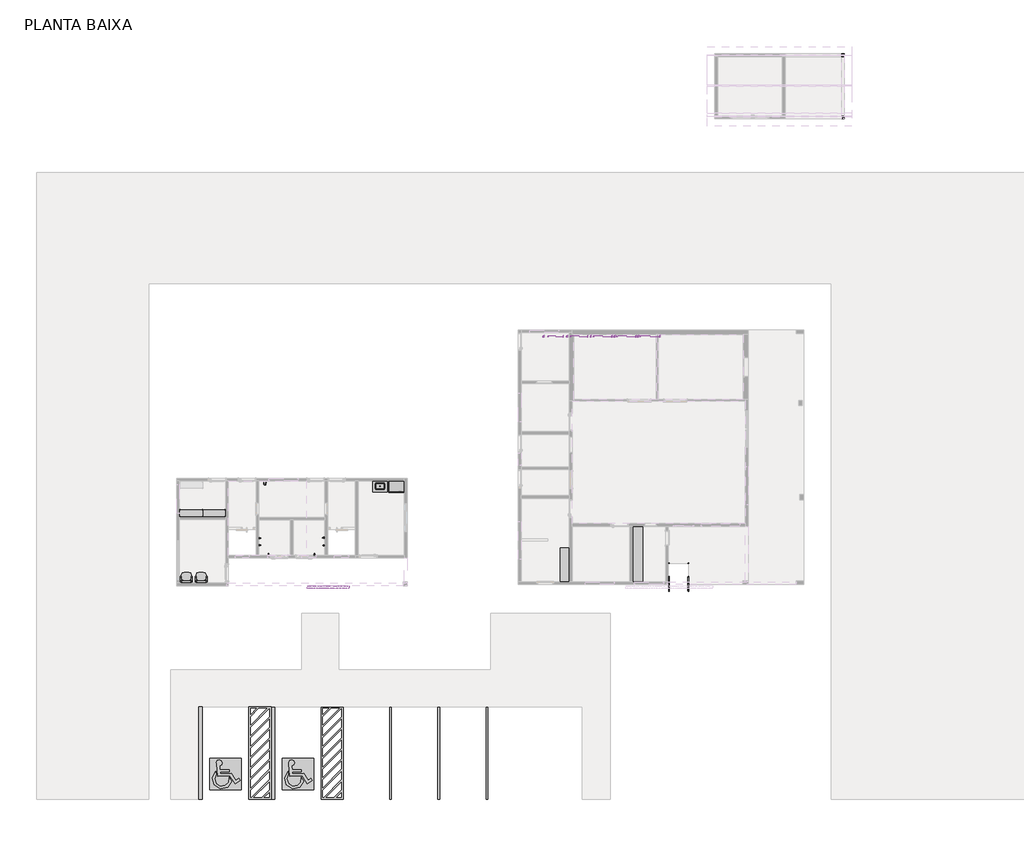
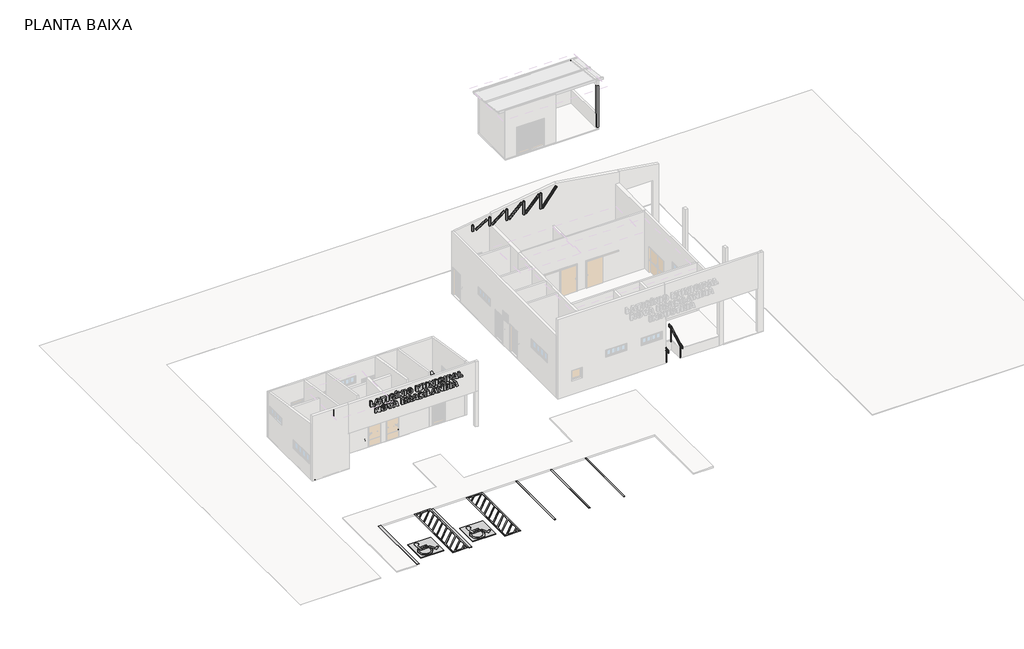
# One storey, part 3 of 4: 10 beams, 8 proxies, 7 flow terminals, 6 furniture elements, 2 columns, 2 railings.
"""IFC4 building model written with IfcOpenShell, lengths in millimetres."""

from ifc_helpers import new_model, si_unit, frame, origin, place, context, project, spatial, polyline, outline, extrude, faceted_brep, transform, mapped, element, save
from components import viga_c_10x10_52a1ff37, viga_c_10x10_c08ebecf, viga_c_10x10_03d0fb69, viga_c_10x10_4e813265, viga_c_10x10_2e194038, viga_c_10x10_8791b15d, viga_c_10x10_c337a21a, viga_c_10x10_dd512e1a, viga_c_10x10_cf55ce63, viga_c_10x10_0e119602, parking_89ea5a63, proxy_9966d709, vaga_de_estacionamento_4800_x_2400_mm_90_degraus_ee1d180e, flow_terminal_74339876, flow_terminal_2aad2271, furniture_c68440b6, furniture_9bc7e8ff, furniture_c36edc87, bancada_granito_bancada_a8d06315, bancada_granito_bancada_e0e4120f, executive_office_chair_2_chair_executive_8d69e98c, executive_office_chair_2_chair_executive_a5be4872, railing_6d980c0e, railing_13fe46f1

model = new_model("IFC4")

# Units and contexts
model_context = context("Model", 3, world=origin())
ifc_project = project(units=[si_unit("LENGTHUNIT", "METRE", prefix="MILLI")], contexts=[model_context])

# Site, building, storey
site = spatial("IfcSite", under=ifc_project)
building = spatial("IfcBuilding", under=site)
storey = spatial("IfcBuildingStorey", under=building, Name="PLANTA BAIXA", Elevation=150.0)

# Beams
placement = place(None, origin())
viga_c_10x10_shape = viga_c_10x10_52a1ff37(model_context)
element("IfcBeam", 1, ObjectType="VIGA PERFIL C AÇO : VIGA C 10X10", at=placement, inside=storey, context=model_context, shape_type="MappedRepresentation", body=[
    mapped(viga_c_10x10_shape, transform((-2589.8464828, 9418.8563425, 5019.1125534), x_axis=(0.0, 0.0, 1.0), y_axis=(-1.0, 0.0, 0.0), z_axis=(0.0, -1.0, 0.0))),
])
viga_c_10x10_2_shape = viga_c_10x10_c08ebecf(model_context)
element("IfcBeam", 2, ObjectType="VIGA PERFIL C AÇO : VIGA C 10X10", at=placement, inside=storey, context=model_context, shape_type="MappedRepresentation", body=[
    mapped(viga_c_10x10_2_shape, transform((-1316.5131495, 9418.8563425, 5114.6125534), x_axis=(0.0, 0.0, 1.0), y_axis=(-1.0, 0.0, 0.0), z_axis=(0.0, -1.0, 0.0))),
])
viga_c_10x10_3_shape = viga_c_10x10_03d0fb69(model_context)
element("IfcBeam", 3, ObjectType="VIGA PERFIL C AÇO : VIGA C 10X10", at=placement, inside=storey, context=model_context, shape_type="MappedRepresentation", body=[
    mapped(viga_c_10x10_3_shape, transform((-43.1798161, 9418.8563425, 5210.1125534), x_axis=(0.0, 0.0, 1.0), y_axis=(-1.0, 0.0, 0.0), z_axis=(0.0, -1.0, 0.0))),
])
viga_c_10x10_4_shape = viga_c_10x10_4e813265(model_context)
element("IfcBeam", 4, ObjectType="VIGA PERFIL C AÇO : VIGA C 10X10", at=placement, inside=storey, context=model_context, shape_type="MappedRepresentation", body=[
    mapped(viga_c_10x10_4_shape, transform((1230.1535172, 9418.8563425, 5305.6125534), x_axis=(0.0, 0.0, 1.0), y_axis=(-1.0, 0.0, 0.0), z_axis=(0.0, -1.0, 0.0))),
])
viga_c_10x10_5_shape = viga_c_10x10_2e194038(model_context)
element("IfcBeam", 5, ObjectType="VIGA PERFIL C AÇO : VIGA C 10X10", at=placement, inside=storey, context=model_context, shape_type="MappedRepresentation", body=[
    mapped(viga_c_10x10_5_shape, transform((2503.4868505, 9418.8563425, 5401.1125534), x_axis=(0.0, 0.0, 1.0), y_axis=(-1.0, 0.0, 0.0), z_axis=(0.0, -1.0, 0.0))),
])
viga_c_10x10_6_shape = viga_c_10x10_8791b15d(model_context)
element("IfcBeam", 6, ObjectType="VIGA PERFIL C AÇO : VIGA C 10X10", at=placement, inside=storey, context=model_context, shape_type="MappedRepresentation", body=[
    mapped(viga_c_10x10_6_shape, transform((-1953.1798161, 9418.8563425, 5114.6125534), x_axis=(0.8379746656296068, 0.0, 0.5457091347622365), y_axis=(-0.5457091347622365, 0.0, 0.8379746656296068), z_axis=(0.0, -1.0, 0.0))),
])
viga_c_10x10_7_shape = viga_c_10x10_c337a21a(model_context)
element("IfcBeam", 7, ObjectType="VIGA PERFIL C AÇO : VIGA C 10X10", at=placement, inside=storey, context=model_context, shape_type="MappedRepresentation", body=[
    mapped(viga_c_10x10_7_shape, transform((-679.8464828, 9418.8563425, 5210.1125534), x_axis=(0.7804026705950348, 0.0, 0.6252772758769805), y_axis=(-0.6252772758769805, 0.0, 0.7804026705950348), z_axis=(0.0, -1.0, 0.0))),
])
viga_c_10x10_8_shape = viga_c_10x10_dd512e1a(model_context)
element("IfcBeam", 8, ObjectType="VIGA PERFIL C AÇO : VIGA C 10X10", at=placement, inside=storey, context=model_context, shape_type="MappedRepresentation", body=[
    mapped(viga_c_10x10_8_shape, transform((593.4868505, 9418.8563425, 5305.6125534), x_axis=(0.7245564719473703, 0.0, 0.6892154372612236), y_axis=(-0.6892154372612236, 0.0, 0.7245564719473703), z_axis=(0.0, -1.0, 0.0))),
])
viga_c_10x10_9_shape = viga_c_10x10_cf55ce63(model_context)
element("IfcBeam", 9, ObjectType="VIGA PERFIL C AÇO : VIGA C 10X10", at=placement, inside=storey, context=model_context, shape_type="MappedRepresentation", body=[
    mapped(viga_c_10x10_9_shape, transform((1866.8201839, 9418.8563425, 5401.1125534), x_axis=(0.6722631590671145, 0.0, 0.7403122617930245), y_axis=(-0.7403122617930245, 0.0, 0.6722631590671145), z_axis=(0.0, -1.0, 0.0))),
])
viga_c_10x10_10_shape = viga_c_10x10_0e119602(model_context)
element("IfcBeam", 10, ObjectType="VIGA PERFIL C AÇO : VIGA C 10X10", at=placement, inside=storey, context=model_context, shape_type="MappedRepresentation", body=[
    mapped(viga_c_10x10_10_shape, transform((3140.1535172, 9418.8563425, 5496.6125534), x_axis=(0.6243222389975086, 0.0, 0.7811669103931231), y_axis=(-0.7811669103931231, 0.0, 0.6243222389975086), z_axis=(0.0, -1.0, 0.0))),
])

# Proxies
parking_shape = parking_89ea5a63(model_context)
element("IfcBuildingElementProxy", 11, Name="FDE_SI11_SinalizaçãoHorizontalParaVagaAcessível_Vagaa90º : SI11_SinalizaçãoHorizontalParaVagaAcessível_Vagaa90º", ObjectType="FDE_SI11_SinalizaçãoHorizontalParaVagaAcessível_Vagaa90º : SI11_SinalizaçãoHorizontalParaVagaAcessível_Vagaa90º", at=placement, inside=storey, context=model_context, shape_type="MappedRepresentation", body=[
    mapped(parking_shape, transform((-20516.4919552, -14009.6316492, 50.0), x_axis=(1.0, 0.0, 0.0), y_axis=(0.0, 1.0, 0.0), z_axis=(0.0, 0.0, 1.0))),
])
element("IfcBuildingElementProxy", 12, Name="FDE_SI11_SinalizaçãoHorizontalParaVagaAcessível_Vagaa90º : SI11_SinalizaçãoHorizontalParaVagaAcessível_Vagaa90º", ObjectType="FDE_SI11_SinalizaçãoHorizontalParaVagaAcessível_Vagaa90º : SI11_SinalizaçãoHorizontalParaVagaAcessível_Vagaa90º", at=placement, inside=storey, context=model_context, shape_type="MappedRepresentation", body=[
    mapped(parking_shape, transform((-16616.4919552, -14009.6316492, 0.0), x_axis=(1.0, 0.0, 0.0), y_axis=(0.0, 1.0, 0.0), z_axis=(0.0, 0.0, 1.0))),
])
element("IfcBuildingElementProxy", 13, Name="400 mm Arial 2", ObjectType="400 mm Arial 2", at=placement, inside=storey, context=model_context, shape_type="SweptSolid", body=[
    extrude(outline(polyline([(4945.9465853, -18054.3663626), (4544.5361022, -18054.3663626), (4544.5361022, -17739.5346111), (4638.9856276, -17739.5346111), (4638.9856276, -17928.433662), (4945.9465853, -17928.433662), (4945.9465853, -18054.3663626)])), frame((0.0, -4203.2411617, 0.0), z_axis=(0.0, 1.0, 0.0), x_axis=(0.0, 0.0, 1.0)), (0.0, 0.0, 1.0), 150.0),
    extrude(outline(polyline([(4607.5024525, -17442.9040703), (4544.5361022, -17424.7028597), (4544.5361022, -17290.8993653), (4945.9465853, -17426.3016147), (4945.9465853, -17588.3907742), (4544.5361022, -17723.7930236), (4544.5361022, -17589.9895292), (4607.5024525, -17572.6491866), (4607.5024525, -17442.9040703)]), holes=[polyline([(4701.9519779, -17466.762414), (4701.9519779, -17546.5771822), (4843.7492472, -17507.3461944), (4701.9519779, -17466.762414)])]), frame((0.0, -4203.2411617, 0.0), z_axis=(0.0, 1.0, 0.0), x_axis=(0.0, 0.0, 1.0)), (0.0, 0.0, 1.0), 150.0),
    extrude(outline(polyline([(4945.9465853, -17275.1577777), (4851.4970599, -17275.1577777), (4851.4970599, -17149.2250772), (4544.5361022, -17149.2250772), (4544.5361022, -17023.2923766), (4851.4970599, -17023.2923766), (4851.4970599, -16897.359676), (4945.9465853, -16897.359676), (4945.9465853, -17275.1577777)])), frame((0.0, -4203.2411617, 0.0), z_axis=(0.0, 1.0, 0.0), x_axis=(0.0, 0.0, 1.0)), (0.0, 0.0, 1.0), 150.0),
    extrude(outline(polyline([(-16716.3314189, -4203.2411617), (-16842.2641195, -4203.2411617), (-16842.2641195, -4053.2411617), (-16716.3314189, -4053.2411617), (-16716.3314189, -4203.2411617)])), frame((0.0, 0.0, 4544.5361022), z_axis=(0.0, 0.0, 1.0), x_axis=(1.0, 0.0, 0.0)), (0.0, 0.0, 1.0), 401.4104831),
    extrude(outline(polyline([(4709.8227717, -16362.1456985), (4676.0029547, -16372.8758041), (4651.2837429, -16388.5866464), (4642.4598452, -16398.7710231), (4636.1570611, -16411.1229427), (4631.1148339, -16442.3294102), (4632.6559414, -16459.6812823), (4637.2792642, -16474.9655337), (4644.984802, -16488.1821645), (4655.772555, -16499.3311746), (4670.7109219, -16508.1819745), (4690.8683015, -16514.5039743), (4746.8400988, -16519.5615743), (4793.3884651, -16515.1957433), (4811.2668502, -16509.7384547), (4825.5480366, -16502.0982505), (4840.3442066, -16489.2620927), (4850.9128994, -16473.874076), (4857.2541151, -16455.9342003), (4859.3678537, -16435.4424657), (4857.4923911, -16417.1797645), (4851.8660033, -16400.7617805), (4842.765398, -16386.4652215), (4830.4672827, -16374.566795), (4804.2722972, -16362.1456985), (4828.1306408, -16251.9545855), (4858.0381199, -16264.1297197), (4883.8103578, -16279.1334203), (4905.4473544, -16296.9656875), (4922.9491097, -16317.6265212), (4936.4539776, -16341.7692588), (4946.1003118, -16370.0472376), (4951.8881123, -16402.4604577), (4953.8173791, -16439.0089191), (4950.4584564, -16485.5303834), (4940.3816881, -16526.4638915), (4923.5870744, -16561.8094434), (4900.0746153, -16591.5670393), (4870.30549, -16615.1602048), (4834.7408778, -16632.012466), (4793.3807788, -16642.1238226), (4746.225193, -16645.4942748), (4710.3454416, -16643.5957533), (4677.847672, -16637.9001886), (4648.731884, -16628.4075809), (4622.9980778, -16615.1179301), (4600.7653912, -16599.2149297), (4582.1529624, -16581.8822735), (4567.1607912, -16563.1199614), (4555.7888777, -16542.9279933), (4541.4462007, -16495.0883248), (4536.6653084, -16435.1965034), (4540.616078, -16385.6350987), (4552.4683866, -16345.666224), (4572.0838805, -16313.3529261), (4599.3242058, -16286.7582518), (4634.2047353, -16266.189654), (4676.7408416, -16251.9545855), (4709.8227717, -16362.1456985)])), frame((0.0, -4203.2411617, 0.0), z_axis=(0.0, 1.0, 0.0), x_axis=(0.0, 0.0, 1.0)), (0.0, 0.0, 1.0), 150.0),
    extrude(outline(polyline([(-16063.0555347, -4203.2411617), (-16188.9882352, -4203.2411617), (-16188.9882352, -4053.2411617), (-16063.0555347, -4053.2411617), (-16063.0555347, -4203.2411617)])), frame((0.0, 0.0, 4544.5361022), z_axis=(0.0, 0.0, 1.0), x_axis=(1.0, 0.0, 0.0)), (0.0, 0.0, 1.0), 401.4104831),
    extrude(outline(polyline([(5056.1376983, -16126.0218849), (4977.4297605, -16173.2466477), (4977.4297605, -16126.0218849), (5056.1376983, -16031.5723595), (5056.1376983, -16126.0218849)])), frame((0.0, -4203.2411617, 0.0), z_axis=(0.0, 1.0, 0.0), x_axis=(0.0, 0.0, 1.0)), (0.0, 0.0, 1.0), 150.0),
    extrude(outline(polyline([(4945.9465853, -15976.476803), (4544.5361022, -15976.476803), (4544.5361022, -15858.4148962), (4764.9183282, -15858.4148962), (4544.5361022, -15708.8698143), (4544.5361022, -15590.8079075), (4945.9465853, -15590.8079075), (4945.9465853, -15708.8698143), (4724.0885855, -15708.8698143), (4945.9465853, -15859.2757643), (4945.9465853, -15976.476803)])), frame((0.0, -4203.2411617, 0.0), z_axis=(0.0, 1.0, 0.0), x_axis=(0.0, 0.0, 1.0)), (0.0, 0.0, 1.0), 150.0),
    extrude(outline(polyline([(-15378.2964752, -4203.2411617), (-15504.2291758, -4203.2411617), (-15504.2291758, -4053.2411617), (-15378.2964752, -4053.2411617), (-15378.2964752, -4203.2411617)])), frame((0.0, 0.0, 4544.5361022), z_axis=(0.0, 0.0, 1.0), x_axis=(1.0, 0.0, 0.0)), (0.0, 0.0, 1.0), 401.4104831),
    extrude(outline(polyline([(4744.9953815, -15307.4593312), (4711.117917, -15305.7260655), (4680.1996865, -15300.5262687), (4652.24069, -15291.8599406), (4627.2409275, -15279.7270812), (4605.3003212, -15264.8040869), (4586.5187933, -15247.7673541), (4570.8963437, -15228.6168827), (4558.4329725, -15207.3526727), (4548.9096195, -15183.5635059), (4542.1072244, -15156.8381641), (4536.6653084, -15094.5789555), (4538.2371613, -15062.5000904), (4542.9527199, -15033.1652422), (4550.8119842, -15006.5744111), (4561.8149542, -14982.7275969), (4575.6503339, -14961.5786818), (4592.0068272, -14943.0815477), (4610.8844342, -14927.2361948), (4632.2831548, -14914.042623), (4656.5296577, -14903.6584019), (4683.9506117, -14896.2411011), (4714.5460166, -14891.7907207), (4748.3158726, -14890.3072605), (4794.3069806, -14893.7046148), (4834.8792316, -14903.8966779), (4870.0326255, -14920.8834496), (4899.7671624, -14944.6649301), (4923.4141322, -14974.733822), (4940.3048249, -15010.582828), (4950.4392406, -15052.2119483), (4953.8173791, -15099.6211828), (4950.37775, -15145.9351163), (4940.0588626, -15186.8609381), (4922.860717, -15222.3986481), (4898.7833132, -15252.5482464), (4868.5337927, -15276.571846), (4832.8192973, -15293.73156), (4791.6398269, -15304.0273884), (4744.9953815, -15307.4593312)]), holes=[polyline([(4744.9953815, -15181.5266306), (4773.4501457, -15180.12772), (4797.5698243, -15175.9309881), (4817.3544173, -15168.9364351), (4832.8039246, -15159.1440608), (4844.4256436, -15147.0457898), (4852.7268714, -15133.1335469), (4857.7076081, -15117.407332), (4859.3678537, -15099.8671451), (4857.7345102, -15081.5660122), (4852.8344799, -15065.2786958), (4844.6677627, -15051.0051957), (4833.2343587, -15038.7455121), (4818.2575601, -15028.8993335), (4799.4606596, -15021.8663488), (4776.8436569, -15017.646558), (4750.4065522, -15016.2399611), (4693.4509057, -15021.6357592), (4672.7093657, -15028.3805068), (4657.1253477, -15037.8231534), (4645.7457479, -15049.7254231), (4637.6174623, -15063.8490399), (4632.740491, -15080.1940038), (4631.1148339, -15098.7603147), (4632.7750794, -15116.8846621), (4637.7558161, -15133.0105658), (4646.0570439, -15147.1380257), (4657.6787629, -15159.2670419), (4673.0975249, -15169.005612), (4692.789882, -15175.9617334), (4716.7558342, -15180.1354063), (4744.9953815, -15181.5266306)])]), frame((0.0, -4203.2411617, 0.0), z_axis=(0.0, 1.0, 0.0), x_axis=(0.0, 0.0, 1.0)), (0.0, 0.0, 1.0), 150.0),
    extrude(outline(polyline([(4945.9465853, -14638.4418593), (4544.5361022, -14638.4418593), (4544.5361022, -14536.1215401), (4849.6523426, -14536.1215401), (4544.5361022, -14463.3166976), (4544.5361022, -14364.1938883), (4849.6523426, -14292.1269327), (4544.5361022, -14292.1269327), (4544.5361022, -14189.8066135), (4945.9465853, -14189.8066135), (4945.9465853, -14356.2001134), (4701.214091, -14413.8782741), (4945.9465853, -14472.2943218), (4945.9465853, -14638.4418593)])), frame((0.0, -4203.2411617, 0.0), z_axis=(0.0, 1.0, 0.0), x_axis=(0.0, 0.0, 1.0)), (0.0, 0.0, 1.0), 150.0),
    extrude(outline(polyline([(4945.9465853, -13851.3624807), (4700.9681287, -13851.3624807), (4671.3296709, -13855.8051749), (4649.3160445, -13869.1332573), (4635.6651365, -13890.270643), (4631.1148339, -13918.1412467), (4635.7419997, -13946.1963222), (4649.6234974, -13967.3951985), (4671.713987, -13980.7232809), (4700.9681287, -13985.1659751), (4945.9465853, -13985.1659751), (4945.9465853, -14111.0986757), (4706.1333371, -14111.0986757), (4674.3734544, -14108.2086186), (4638.1247596, -14099.5384473), (4614.6046141, -14089.3617569), (4591.7608649, -14073.0974994), (4571.8379182, -14052.7748639), (4557.0801798, -14030.4230393), (4546.918862, -14004.2126811), (4540.785177, -13972.3144446), (4536.6653084, -13908.3027545), (4540.0165448, -13861.1394824), (4550.0702541, -13821.2320982), (4563.1984922, -13795.7442543), (4583.3981465, -13771.4247313), (4609.1319528, -13750.8407608), (4638.8626465, -13736.5595745), (4671.5448879, -13728.2122287), (4706.1333371, -13725.4297801), (4945.9465853, -13725.4297801), (4945.9465853, -13851.3624807)])), frame((0.0, -4203.2411617, 0.0), z_axis=(0.0, 1.0, 0.0), x_axis=(0.0, 0.0, 1.0)), (0.0, 0.0, 1.0), 150.0),
    extrude(outline(polyline([(4945.9465853, -13646.7218423), (4544.5361022, -13646.7218423), (4544.5361022, -13528.6599355), (4764.9183282, -13528.6599355), (4544.5361022, -13379.1148535), (4544.5361022, -13261.0529467), (4945.9465853, -13261.0529467), (4945.9465853, -13379.1148535), (4724.0885855, -13379.1148535), (4945.9465853, -13529.5208035), (4945.9465853, -13646.7218423)])), frame((0.0, -4203.2411617, 0.0), z_axis=(0.0, 1.0, 0.0), x_axis=(0.0, 0.0, 1.0)), (0.0, 0.0, 1.0), 150.0),
    extrude(outline(polyline([(-13048.5415145, -4203.2411617), (-13174.4742151, -4203.2411617), (-13174.4742151, -4053.2411617), (-13048.5415145, -4053.2411617), (-13048.5415145, -4203.2411617)])), frame((0.0, 0.0, 4544.5361022), z_axis=(0.0, 0.0, 1.0), x_axis=(1.0, 0.0, 0.0)), (0.0, 0.0, 1.0), 401.4104831),
    extrude(outline(polyline([(4709.8227717, -12694.3557941), (4676.0029547, -12705.0858997), (4651.2837429, -12720.796742), (4642.4598452, -12730.9811187), (4636.1570611, -12743.3330383), (4631.1148339, -12774.5395058), (4632.6559414, -12791.8913779), (4637.2792642, -12807.1756293), (4644.984802, -12820.3922601), (4655.772555, -12831.5412702), (4670.7109219, -12840.39207), (4690.8683015, -12846.7140699), (4746.8400988, -12851.7716698), (4793.3884651, -12847.4058389), (4811.2668502, -12841.9485503), (4825.5480366, -12834.3083461), (4840.3442066, -12821.4721883), (4850.9128994, -12806.0841715), (4857.2541151, -12788.1442959), (4859.3678537, -12767.6525613), (4857.4923911, -12749.38986), (4851.8660033, -12732.9718761), (4842.765398, -12718.6753171), (4830.4672827, -12706.7768906), (4804.2722972, -12694.3557941), (4828.1306408, -12584.1646811), (4858.0381199, -12596.3398153), (4883.8103578, -12611.3435159), (4905.4473544, -12629.1757831), (4922.9491097, -12649.8366168), (4936.4539776, -12673.9793543), (4946.1003118, -12702.2573332), (4951.8881123, -12734.6705533), (4953.8173791, -12771.2190147), (4950.4584564, -12817.7404789), (4940.3816881, -12858.6739871), (4923.5870744, -12894.019539), (4900.0746153, -12923.7771349), (4870.30549, -12947.3703004), (4834.7408778, -12964.2225615), (4793.3807788, -12974.3339182), (4746.225193, -12977.7043704), (4710.3454416, -12975.8058489), (4677.847672, -12970.1102842), (4648.731884, -12960.6176765), (4622.9980778, -12947.3280257), (4600.7653912, -12931.4250253), (4582.1529624, -12914.0923691), (4567.1607912, -12895.3300569), (4555.7888777, -12875.1380889), (4541.4462007, -12827.2984204), (4536.6653084, -12767.406599), (4540.616078, -12717.8451943), (4552.4683866, -12677.8763196), (4572.0838805, -12645.5630217), (4599.3242058, -12618.9683474), (4634.2047353, -12598.3997496), (4676.7408416, -12584.1646811), (4709.8227717, -12694.3557941)])), frame((0.0, -4203.2411617, 0.0), z_axis=(0.0, 1.0, 0.0), x_axis=(0.0, 0.0, 1.0)), (0.0, 0.0, 1.0), 150.0),
    extrude(outline(polyline([(-12395.2656302, -4203.2411617), (-12521.1983308, -4203.2411617), (-12521.1983308, -4053.2411617), (-12395.2656302, -4053.2411617), (-12395.2656302, -4203.2411617)])), frame((0.0, 0.0, 4544.5361022), z_axis=(0.0, 0.0, 1.0), x_axis=(1.0, 0.0, 0.0)), (0.0, 0.0, 1.0), 401.4104831),
    extrude(outline(polyline([(4945.9465853, -12308.6868986), (4544.5361022, -12308.6868986), (4544.5361022, -12182.754198), (4670.4688028, -12182.754198), (4670.4688028, -12115.975432), (4672.8016015, -12081.4446301), (4679.7999978, -12051.6409164), (4691.4639915, -12026.5642907), (4707.7935827, -12006.214753), (4728.2737878, -11990.4770086), (4752.3896233, -11979.2357626), (4780.1410891, -11972.491015), (4811.5281852, -11970.2427658), (4841.9083731, -11972.3257591), (4868.6068128, -11978.5747389), (4891.6235042, -11988.9897053), (4910.9584473, -12003.5706582), (4926.2657577, -12022.3329704), (4937.1995508, -12045.2920143), (4943.7598267, -12072.4477902), (4945.9465853, -12103.8002978), (4945.9465853, -12308.6868986)]), holes=[polyline([(4764.9183282, -12182.754198), (4851.4970599, -12182.754198), (4851.4970599, -12150.6561171), (4848.3149225, -12124.0921881), (4838.7685106, -12107.6127136), (4824.6717959, -12099.0347782), (4807.8387506, -12096.1754664), (4790.7136251, -12099.4652122), (4776.9704812, -12109.3344497), (4767.9313665, -12127.3511886), (4764.9183282, -12155.0834386), (4764.9183282, -12182.754198)])]), frame((0.0, -4203.2411617, 0.0), z_axis=(0.0, 1.0, 0.0), x_axis=(0.0, 0.0, 1.0)), (0.0, 0.0, 1.0), 150.0),
    extrude(outline(polyline([(4607.5024525, -11665.7414312), (4544.5361022, -11647.5402205), (4544.5361022, -11513.7367262), (4945.9465853, -11649.1389755), (4945.9465853, -11811.2281351), (4544.5361022, -11946.6303844), (4544.5361022, -11812.8268901), (4607.5024525, -11795.4865475), (4607.5024525, -11665.7414312)]), holes=[polyline([(4701.9519779, -11689.5997748), (4701.9519779, -11769.4145431), (4843.7492472, -11730.1835553), (4701.9519779, -11689.5997748)])]), frame((0.0, -4203.2411617, 0.0), z_axis=(0.0, 1.0, 0.0), x_axis=(0.0, 0.0, 1.0)), (0.0, 0.0, 1.0), 150.0),
    extrude(outline(polyline([(4945.9465853, -11474.3827572), (4544.5361022, -11474.3827572), (4544.5361022, -11159.5510058), (4638.9856276, -11159.5510058), (4638.9856276, -11348.4500567), (4945.9465853, -11348.4500567), (4945.9465853, -11474.3827572)])), frame((0.0, -4203.2411617, 0.0), z_axis=(0.0, 1.0, 0.0), x_axis=(0.0, 0.0, 1.0)), (0.0, 0.0, 1.0), 150.0),
    extrude(outline(polyline([(4317.6935655, -17708.051436), (3916.2830824, -17708.051436), (3916.2830824, -17589.9895292), (4136.6653084, -17589.9895292), (3916.2830824, -17440.4444473), (3916.2830824, -17322.3825405), (4317.6935655, -17322.3825405), (4317.6935655, -17440.4444473), (4095.8355657, -17440.4444473), (4317.6935655, -17590.8503973), (4317.6935655, -17708.051436)])), frame((0.0, -4203.2411617, 0.0), z_axis=(0.0, 1.0, 0.0), x_axis=(0.0, 0.0, 1.0)), (0.0, 0.0, 1.0), 150.0),
    extrude(outline(polyline([(4116.7423617, -17259.4161902), (4082.8648972, -17257.6829245), (4051.9466667, -17252.4831277), (4023.9876702, -17243.8167996), (3998.9879077, -17231.6839402), (3977.0473014, -17216.7609459), (3958.2657735, -17199.7242131), (3942.6433239, -17180.5737417), (3930.1799527, -17159.3095317), (3920.6565997, -17135.5203649), (3913.8542046, -17108.7950231), (3908.4122886, -17046.5358145), (3909.9841415, -17014.4569494), (3914.6997001, -16985.1221012), (3922.5589644, -16958.5312701), (3933.5619344, -16934.6844559), (3947.3973141, -16913.5355408), (3963.7538074, -16895.0384067), (3982.6314144, -16879.1930538), (4004.030135, -16865.999482), (4028.2766379, -16855.6152609), (4055.6975919, -16848.1979601), (4086.2929968, -16843.7475797), (4120.0628528, -16842.2641195), (4166.0539608, -16845.6614738), (4206.6262118, -16855.8535369), (4241.7796057, -16872.8403086), (4271.5141426, -16896.6217891), (4295.1611124, -16926.690681), (4312.0518051, -16962.539687), (4322.1862208, -17004.1688073), (4325.5643593, -17051.5780417), (4322.1247302, -17097.8919753), (4311.8058428, -17138.8177971), (4294.6076972, -17174.3555071), (4270.5302934, -17204.5051054), (4240.2807729, -17228.528705), (4204.5662775, -17245.688419), (4163.3868071, -17255.9842474), (4116.7423617, -17259.4161902)]), holes=[polyline([(4116.7423617, -17133.4834896), (4145.1971259, -17132.084579), (4169.3168045, -17127.8878471), (4189.1013975, -17120.8932941), (4204.5509048, -17111.1009198), (4216.1726238, -17099.0026488), (4224.4738516, -17085.0904059), (4229.4545883, -17069.364191), (4231.1148339, -17051.8240041), (4229.4814904, -17033.5228712), (4224.5814601, -17017.2355548), (4216.4147429, -17002.9620547), (4204.9813389, -16990.7023711), (4190.0045403, -16980.8561925), (4171.2076397, -16973.8232078), (4148.5906371, -16969.603417), (4122.1535324, -16968.1968201), (4065.1978859, -16973.5926182), (4044.4563459, -16980.3373658), (4028.8723279, -16989.7800124), (4017.4927281, -17001.6822821), (4009.3644425, -17015.8058989), (4004.4874712, -17032.1508628), (4002.8618141, -17050.7171737), (4004.5220596, -17068.8415211), (4009.5027963, -17084.9674248), (4017.8040241, -17099.0948847), (4029.4257431, -17111.2239009), (4044.8445051, -17120.962471), (4064.5368622, -17127.9185924), (4088.5028144, -17132.0922653), (4116.7423617, -17133.4834896)])]), frame((0.0, -4203.2411617, 0.0), z_axis=(0.0, 1.0, 0.0), x_axis=(0.0, 0.0, 1.0)), (0.0, 0.0, 1.0), 150.0),
    extrude(outline(polyline([(4317.6935655, -16810.7809443), (3916.2830824, -16661.6048059), (3916.2830824, -16527.9242927), (4317.6935655, -16377.8872861), (4317.6935655, -16511.6907805), (4028.8108373, -16594.3341152), (4317.6935655, -16677.1004311), (4317.6935655, -16810.7809443)])), frame((0.0, -4203.2411617, 0.0), z_axis=(0.0, 1.0, 0.0), x_axis=(0.0, 0.0, 1.0)), (0.0, 0.0, 1.0), 150.0),
    extrude(outline(polyline([(3979.2494327, -16104.8691266), (3916.2830824, -16086.667916), (3916.2830824, -15952.8644216), (4317.6935655, -16088.266671), (4317.6935655, -16250.3558305), (3916.2830824, -16385.7580799), (3916.2830824, -16251.9545855), (3979.2494327, -16234.614243), (3979.2494327, -16104.8691266)]), holes=[polyline([(4073.6989581, -16128.7274703), (4073.6989581, -16208.5422385), (4215.4962274, -16169.3112508), (4073.6989581, -16128.7274703)])]), frame((0.0, -4203.2411617, 0.0), z_axis=(0.0, 1.0, 0.0), x_axis=(0.0, 0.0, 1.0)), (0.0, 0.0, 1.0), 150.0),
    extrude(outline(polyline([(4317.6935655, -15724.6114018), (3916.2830824, -15724.6114018), (3916.2830824, -15511.1161204), (3921.6942531, -15455.6516204), (3927.0746786, -15428.2575686), (3934.8532365, -15408.7958012), (3951.8553809, -15386.2748775), (3974.0842243, -15369.1343794), (4000.4636816, -15358.2966653), (4029.9176677, -15354.6840939), (4064.9058057, -15359.7570664), (4093.3759426, -15374.9759841), (4105.0514658, -15386.5362125), (4114.8668991, -15400.9250074), (4128.9174958, -15438.1882967), (4140.6314506, -15412.2392734), (4155.8503683, -15393.4231571), (4183.982307, -15376.1750504), (4217.2179636, -15370.4256815), (4237.6943255, -15372.3780073), (4256.4489514, -15378.2349847), (4273.481841, -15387.9966137), (4288.7929946, -15401.6628943), (4301.4369944, -15418.9724916), (4310.4684228, -15439.6640705), (4315.8872798, -15463.7376312), (4317.6935655, -15491.1931736), (4317.6935655, -15724.6114018)]), holes=[polyline([(4010.7326078, -15598.6787013), (4081.5697519, -15598.6787013), (4081.5697519, -15537.5570683), (4079.2177374, -15510.6088231), (4072.1616937, -15493.2223626), (4061.2317438, -15483.7681865), (4047.2580103, -15480.6167945), (4032.238937, -15483.8143044), (4020.6325907, -15493.4068344), (4013.2076035, -15510.7779222), (4010.7326078, -15537.311106), (4010.7326078, -15598.6787013)]), polyline([(4160.2776898, -15598.6787013), (4223.2440401, -15598.6787013), (4223.2440401, -15545.6738244), (4221.1994784, -15522.4457591), (4215.0657934, -15507.3651952), (4205.3349097, -15499.1100853), (4192.4987518, -15496.358382), (4178.6326269, -15499.1100853), (4168.517427, -15507.3651952), (4162.3376241, -15522.6302308), (4160.2776898, -15546.4117113), (4160.2776898, -15598.6787013)])]), frame((0.0, -4203.2411617, 0.0), z_axis=(0.0, 1.0, 0.0), x_axis=(0.0, 0.0, 1.0)), (0.0, 0.0, 1.0), 150.0),
    extrude(outline(polyline([(3916.2830824, -15291.7177436), (3916.2830824, -15165.785043), (4073.6989581, -15165.785043), (4073.6989581, -15155.2086639), (4071.4545521, -15139.6208027), (4064.721334, -15125.8161683), (4053.8067567, -15115.5779873), (4034.8369138, -15104.0485043), (3916.2830824, -15040.0983047), (3916.2830824, -14898.1780543), (4028.6878562, -14958.8077627), (4053.1611056, -14976.0251241), (4073.9449204, -14995.7021085), (4088.4566965, -15027.8001895), (4095.7125845, -15002.7735248), (4104.6902087, -14983.7729367), (4122.4148673, -14961.1751499), (4144.8435551, -14944.0500243), (4171.976272, -14933.2584282), (4203.8130179, -14929.6612294), (4239.9694769, -14934.3191406), (4270.2228405, -14948.2928741), (4293.2203161, -14969.8606938), (4307.609111, -14997.3008635), (4315.1724519, -15034.4411717), (4317.6935655, -15085.1094067), (4317.6935655, -15291.7177436), (3916.2830824, -15291.7177436)]), holes=[polyline([(4152.406896, -15165.785043), (4223.2440401, -15165.785043), (4223.2440401, -15112.657185), (4220.9842614, -15084.8480718), (4214.2049253, -15067.5845924), (4203.2134848, -15058.5915956), (4188.3173926, -15055.59393), (4177.5411691, -15057.5001379), (4168.086993, -15063.2187615), (4160.9694588, -15071.9196781), (4157.203161, -15082.7727648), (4152.406896, -15114.8708457), (4152.406896, -15165.785043)])]), frame((0.0, -4203.2411617, 0.0), z_axis=(0.0, 1.0, 0.0), x_axis=(0.0, 0.0, 1.0)), (0.0, 0.0, 1.0), 150.0),
    extrude(outline(polyline([(3979.2494327, -14617.289101), (3916.2830824, -14599.0878904), (3916.2830824, -14465.284396), (4317.6935655, -14600.6866454), (4317.6935655, -14762.7758049), (3916.2830824, -14898.1780543), (3916.2830824, -14764.3745599), (3979.2494327, -14747.0342174), (3979.2494327, -14617.289101)]), holes=[polyline([(4073.6989581, -14641.1474447), (4073.6989581, -14720.9622129), (4215.4962274, -14681.7312252), (4073.6989581, -14641.1474447)])]), frame((0.0, -4203.2411617, 0.0), z_axis=(0.0, 1.0, 0.0), x_axis=(0.0, 0.0, 1.0)), (0.0, 0.0, 1.0), 150.0),
    extrude(outline(polyline([(4050.3325391, -14449.5428085), (4020.8170624, -14444.831093), (3994.007171, -14435.8611552), (3969.9028651, -14422.6329949), (3948.5041445, -14405.1466123), (3930.9639575, -14381.6264668), (3918.4352526, -14350.2970181), (3910.9180296, -14311.1582662), (3908.4122886, -14264.210211), (3912.6858837, -14211.1438435), (3925.5066689, -14168.0389495), (3946.6133092, -14134.1422692), (3975.7444698, -14108.7005432), (4010.379037, -14092.7898565), (4047.9958972, -14087.4862943), (4079.8326431, -14091.4524365), (4108.4411338, -14103.350863), (4133.2372088, -14123.9809514), (4153.6367075, -14154.1420792), (4171.7456823, -14200.5059738), (4189.6701853, -14269.7443629), (4196.9568186, -14294.8632634), (4204.7968671, -14305.0399538), (4222.5061532, -14307.8685203), (4234.911877, -14305.808586), (4245.319157, -14299.6287831), (4252.3752007, -14289.3598568), (4254.7272152, -14275.0325525), (4251.452842, -14257.3693844), (4241.6297224, -14243.9798114), (4224.5814601, -14234.6486164), (4199.6316587, -14229.1605824), (4206.8875467, -14103.2278819), (4235.7266271, -14108.9964666), (4260.3843483, -14118.8003704), (4280.8607102, -14132.6395932), (4297.155713, -14150.5141352), (4309.5844957, -14172.6468995), (4318.4621977, -14199.2607896), (4323.7888189, -14230.3558055), (4325.5643593, -14265.9319472), (4321.6289624, -14321.0889942), (4309.8227717, -14363.087058), (4291.1603818, -14394.0629359), (4266.6563871, -14416.1534254), (4238.3707219, -14429.389272), (4208.3633206, -14433.8012209), (4185.8654559, -14431.6259917), (4165.4736435, -14425.1003043), (4147.1878833, -14414.2241586), (4131.0081754, -14398.9975546), (4116.5425173, -14378.8747635), (4103.5218877, -14352.9411129), (4081.8157142, -14283.6412332), (4070.2554859, -14243.9490661), (4057.9573706, -14223.7494117), (4044.5524249, -14216.0015991), (4029.4257431, -14213.4189949), (4013.6072923, -14216.5703869), (3999.8487758, -14226.024563), (3990.3023638, -14241.2895987), (3987.1202265, -14261.8735691), (3988.7036088, -14276.5928759), (3993.4537559, -14289.5135832), (4001.3706676, -14300.6356913), (4012.454344, -14309.9591999), (4031.6394038, -14318.5371353), (4057.9573706, -14323.6101079), (4050.3325391, -14449.5428085)])), frame((0.0, -4203.2411617, 0.0), z_axis=(0.0, 1.0, 0.0), x_axis=(0.0, 0.0, 1.0)), (0.0, 0.0, 1.0), 150.0),
    extrude(outline(polyline([(-13890.7164496, -4203.2411617), (-14016.6491502, -4203.2411617), (-14016.6491502, -4053.2411617), (-13890.7164496, -4053.2411617), (-13890.7164496, -4203.2411617)])), frame((0.0, 0.0, 3916.2830824), z_axis=(0.0, 0.0, 1.0), x_axis=(1.0, 0.0, 0.0)), (0.0, 0.0, 1.0), 401.4104831),
    extrude(outline(polyline([(4317.6935655, -13804.137718), (3916.2830824, -13804.137718), (3916.2830824, -13489.3059665), (4010.7326078, -13489.3059665), (4010.7326078, -13678.2050174), (4317.6935655, -13678.2050174), (4317.6935655, -13804.137718)])), frame((0.0, -4203.2411617, 0.0), z_axis=(0.0, 1.0, 0.0), x_axis=(0.0, 0.0, 1.0)), (0.0, 0.0, 1.0), 150.0),
    extrude(outline(polyline([(4427.8846785, -13292.1671784), (4349.1767407, -13355.5024722), (4349.1767407, -13286.8789888), (4391.236295, -13253.1821529), (4349.1767407, -13219.4853171), (4349.1767407, -13150.8618337), (4427.8846785, -13212.229429), (4427.8846785, -13292.1671784)])), frame((0.0, -4203.2411617, 0.0), z_axis=(0.0, 1.0, 0.0), x_axis=(0.0, 0.0, 1.0)), (0.0, 0.0, 1.0), 150.0),
    extrude(outline(polyline([(3979.2494327, -13192.6754257), (3916.2830824, -13174.4742151), (3916.2830824, -13040.6707207), (4317.6935655, -13176.0729701), (4317.6935655, -13338.1621296), (3916.2830824, -13473.564379), (3916.2830824, -13339.7608846), (3979.2494327, -13322.420542), (3979.2494327, -13192.6754257)]), holes=[polyline([(4073.6989581, -13216.5337694), (4073.6989581, -13296.3485376), (4215.4962274, -13257.1175498), (4073.6989581, -13216.5337694)])]), frame((0.0, -4203.2411617, 0.0), z_axis=(0.0, 1.0, 0.0), x_axis=(0.0, 0.0, 1.0)), (0.0, 0.0, 1.0), 150.0),
    extrude(outline(polyline([(4317.6935655, -13001.3167518), (3916.2830824, -13001.3167518), (3916.2830824, -12883.254845), (4136.6653084, -12883.254845), (3916.2830824, -12733.7097631), (3916.2830824, -12615.6478563), (4317.6935655, -12615.6478563), (4317.6935655, -12733.7097631), (4095.8355657, -12733.7097631), (4317.6935655, -12884.1157131), (4317.6935655, -13001.3167518)])), frame((0.0, -4203.2411617, 0.0), z_axis=(0.0, 1.0, 0.0), x_axis=(0.0, 0.0, 1.0)), (0.0, 0.0, 1.0), 150.0),
    extrude(outline(polyline([(4317.6935655, -12536.9399184), (3916.2830824, -12536.9399184), (3916.2830824, -12352.3452079), (3919.0194131, -12317.2955793), (3927.228405, -12278.3105538), (3939.2036948, -12249.3946102), (3959.1420142, -12222.4156198), (3985.9519055, -12199.2336725), (4018.5419111, -12181.7088582), (4061.2317438, -12170.6866724), (4118.3411166, -12167.0126104), (4158.325364, -12169.4876061), (4196.1266959, -12176.9125933), (4230.5767913, -12189.8102417), (4260.5073294, -12208.7032213), (4284.9498335, -12233.5300415), (4302.9358272, -12264.2292118), (4314.0041309, -12303.0758835), (4317.6935655, -12352.3452079), (4317.6935655, -12536.9399184)]), holes=[polyline([(4223.2440401, -12411.0072178), (4223.2440401, -12380.7538542), (4221.8182273, -12358.8747385), (4217.5407891, -12340.3391728), (4210.4117254, -12325.1471573), (4200.4310362, -12313.2986918), (4186.584127, -12304.3940877), (4167.8564033, -12298.0336562), (4115.7585124, -12292.945311), (4075.5897934, -12295.2204624), (4048.3033501, -12302.0459163), (4030.5786914, -12312.8836304), (4019.0953262, -12327.1955621), (4012.8232874, -12348.7326365), (4010.7326078, -12381.2457788), (4010.7326078, -12411.0072178), (4223.2440401, -12411.0072178)])]), frame((0.0, -4203.2411617, 0.0), z_axis=(0.0, 1.0, 0.0), x_axis=(0.0, 0.0, 1.0)), (0.0, 0.0, 1.0), 150.0),
    extrude(outline(polyline([(-11970.2427658, -4203.2411617), (-12096.1754664, -4203.2411617), (-12096.1754664, -4053.2411617), (-11970.2427658, -4053.2411617), (-11970.2427658, -4203.2411617)])), frame((0.0, 0.0, 3916.2830824), z_axis=(0.0, 0.0, 1.0), x_axis=(1.0, 0.0, 0.0)), (0.0, 0.0, 1.0), 401.4104831),
    extrude(outline(polyline([(3979.2494327, -11642.1290498), (3916.2830824, -11623.9278392), (3916.2830824, -11490.1243448), (4317.6935655, -11625.5265942), (4317.6935655, -11787.6157537), (3916.2830824, -11923.0180031), (3916.2830824, -11789.2145087), (3979.2494327, -11771.8741661), (3979.2494327, -11642.1290498)]), holes=[polyline([(4073.6989581, -11665.9873935), (4073.6989581, -11745.8021617), (4215.4962274, -11706.5711739), (4073.6989581, -11665.9873935)])]), frame((0.0, -4203.2411617, 0.0), z_axis=(0.0, 1.0, 0.0), x_axis=(0.0, 0.0, 1.0)), (0.0, 0.0, 1.0), 150.0),
])
proxy_shape = proxy_9966d709(model_context)
element("IfcBuildingElementProxy", 14, Name="prateleira2 : 48\" Wide x 14\" Deep", ObjectType="prateleira2 : 48\" Wide x 14\" Deep", at=placement, inside=storey, context=model_context, shape_type="MappedRepresentation", body=[
    mapped(proxy_shape, transform((-21578.1798161, -133.2411617, 150.0), x_axis=(-1.0000000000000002, 0.0, 0.0), y_axis=(0.0, -1.0000000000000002, 0.0), z_axis=(0.0, 0.0, 1.0))),
])
element("IfcBuildingElementProxy", 15, Name="prateleira2 : 48\" Wide x 14\" Deep", ObjectType="prateleira2 : 48\" Wide x 14\" Deep", at=placement, inside=storey, context=model_context, shape_type="MappedRepresentation", body=[
    mapped(proxy_shape, transform((-20358.1798161, -133.2411617, 150.0), x_axis=(-1.0000000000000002, 0.0, 0.0), y_axis=(0.0, -1.0000000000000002, 0.0), z_axis=(0.0, 0.0, 1.0))),
])
vaga_de_estacionamento_4800_x_2400_mm_90_degraus_shape = vaga_de_estacionamento_4800_x_2400_mm_90_degraus_ee1d180e(model_context)
element("IfcBuildingElementProxy", 16, Name="Vaga de estacionamento : 4800 x 2400 mm - 90 degraus", ObjectType="Vaga de estacionamento : 4800 x 2400 mm - 90 degraus", at=placement, inside=storey, context=model_context, shape_type="MappedRepresentation", body=[
    mapped(vaga_de_estacionamento_4800_x_2400_mm_90_degraus_shape, transform((-10821.8222276, -10581.0235359, 10.0), x_axis=(1.0, 0.0, 0.0), y_axis=(0.0, 1.0, 0.0), z_axis=(0.0, 0.0, 1.0))),
])
element("IfcBuildingElementProxy", 17, Name="Vaga de estacionamento : 4800 x 2400 mm - 90 degraus", ObjectType="Vaga de estacionamento : 4800 x 2400 mm - 90 degraus", at=placement, inside=storey, context=model_context, shape_type="MappedRepresentation", body=[
    mapped(vaga_de_estacionamento_4800_x_2400_mm_90_degraus_shape, transform((-8219.8222276, -10581.0235359, 15.0), x_axis=(1.0, 0.0, 0.0), y_axis=(0.0, 1.0, 0.0), z_axis=(0.0, 0.0, 1.0))),
])
element("IfcBuildingElementProxy", 18, Name="Vaga de estacionamento : 4800 x 2400 mm - 90 degraus", ObjectType="Vaga de estacionamento : 4800 x 2400 mm - 90 degraus", at=placement, inside=storey, context=model_context, shape_type="MappedRepresentation", body=[
    mapped(vaga_de_estacionamento_4800_x_2400_mm_90_degraus_shape, transform((-5617.8222276, -10581.0235359, 15.0), x_axis=(1.0, 0.0, 0.0), y_axis=(0.0, 1.0, 0.0), z_axis=(0.0, 0.0, 1.0))),
])

# Columns
element("IfcColumn", 19, ObjectType="M_Concreto-Retangular-Coluna : 15X15", at=placement, inside=storey, context=model_context, shape_type="Brep", body=[
    faceted_brep([(13678.4025194, 24668.8563425, 230.0), (13678.4025194, 24518.8563425, 230.0), (13528.4025194, 24518.8563425, 230.0), (13528.4025194, 24668.8563425, 230.0), (13678.4025194, 24668.8563425, 3550.0), (13678.4025194, 24518.8563425, 3550.0), (13678.4025194, 24518.8563425, 3420.0), (13678.4025194, 24518.8563425, 3120.0), (13678.4025194, 24518.8563425, 1250.0), (13528.4025194, 24518.8563425, 3550.0), (13528.4025194, 24518.8563425, 3420.0), (13528.4025194, 24518.8563425, 3120.0), (13528.4025194, 24518.8563425, 1250.0), (13528.4025194, 24668.8563425, 3550.0), (13528.4025194, 24668.8563425, 1250.0)], [[[0, 1, 2, 3]], [[4, 5, 6, 7, 8, 1, 0]], [[5, 9, 10, 11, 12, 2, 1, 8, 7, 6]], [[9, 13, 14, 3, 2, 12, 11, 10]], [[13, 4, 0, 3, 14]], [[4, 13, 9, 5]]]),
])
element("IfcColumn", 20, ObjectType="M_Concreto-Retangular-Coluna : 15X15", at=placement, inside=storey, context=model_context, shape_type="Brep", body=[
    faceted_brep([(13678.4025194, 21318.8563425, 230.0), (13678.4025194, 21168.8563425, 230.0), (13528.4025194, 21168.8563425, 230.0), (13528.4025194, 21318.8563425, 230.0), (13678.4025194, 21318.8563425, 3550.0), (13678.4025194, 21168.8563425, 3550.0), (13678.4025194, 21318.8563425, 1250.0), (13678.4025194, 21318.8563425, 3120.0), (13678.4025194, 21318.8563425, 3420.0), (13528.4025194, 21168.8563425, 3550.0), (13528.4025194, 21318.8563425, 3550.0), (13528.4025194, 21318.8563425, 3420.0), (13528.4025194, 21318.8563425, 3120.0), (13528.4025194, 21318.8563425, 1250.0)], [[[0, 1, 2, 3]], [[4, 5, 1, 0, 6, 7, 8]], [[5, 9, 2, 1]], [[9, 10, 11, 12, 13, 3, 2]], [[10, 4, 8, 7, 6, 0, 3, 13, 12, 11]], [[4, 10, 9, 5]]]),
])

# Flow terminals
flow_terminal_shape = flow_terminal_74339876(model_context)
element("IfcFlowTerminal", 21, ObjectType="Deca_Shared_Coluna para Tanque_TQ.03 : CT.25_Branco Gelo GE17", at=placement, inside=storey, context=model_context, shape_type="MappedRepresentation", body=[
    mapped(flow_terminal_shape, transform((-17604.0326871, 1516.9924147, 150.0), x_axis=(1.0, 0.0, 0.0), y_axis=(0.0, 0.0, 1.0), z_axis=(0.0, -1.0, 0.0))),
])
flow_terminal_2_shape = flow_terminal_2aad2271(model_context)
element("IfcFlowTerminal", 22, ObjectType="Deca_Barra de Apoio Conforto - Aco Inox_2310.C.070_70 cm : 2310.C.070.ESC_Aço Inox Escovado ESC", at=placement, inside=storey, context=model_context, shape_type="MappedRepresentation", body=[
    mapped(flow_terminal_2_shape, transform((-17408.1798161, -2403.2411617, 900.0), x_axis=(0.0, 0.0, 1.0), y_axis=(1.0, 0.0, 0.0), z_axis=(0.0, 1.0, 0.0))),
])
element("IfcFlowTerminal", 23, ObjectType="Deca_Barra de Apoio Conforto - Aco Inox_2310.C.070_70 cm : 2310.C.070.ESC_Aço Inox Escovado ESC", at=placement, inside=storey, context=model_context, shape_type="MappedRepresentation", body=[
    mapped(flow_terminal_2_shape, transform((-17923.1798161, -1863.2411617, 900.0), x_axis=(0.0, 0.0, 1.0), y_axis=(0.0, -1.0, 0.0), z_axis=(1.0, 0.0, 0.0))),
])
element("IfcFlowTerminal", 24, ObjectType="Deca_Barra de Apoio Conforto - Aco Inox_2310.C.070_70 cm : 2310.C.070.ESC_Aço Inox Escovado ESC", at=placement, inside=storey, context=model_context, shape_type="MappedRepresentation", body=[
    mapped(flow_terminal_2_shape, transform((-17923.1798161, -1483.2411617, 900.0), x_axis=(0.0, 0.0, 1.0), y_axis=(0.0, -1.0, 0.0), z_axis=(1.0, 0.0, 0.0))),
])
element("IfcFlowTerminal", 25, ObjectType="Deca_Barra de Apoio Conforto - Aco Inox_2310.C.070_70 cm : 2310.C.070.ESC_Aço Inox Escovado ESC", at=placement, inside=storey, context=model_context, shape_type="MappedRepresentation", body=[
    mapped(flow_terminal_2_shape, transform((-14915.6207555, -2403.2411617, 900.0), x_axis=(0.0, 0.0, 1.0), y_axis=(1.0, 0.0, 0.0), z_axis=(0.0, 1.0, 0.0))),
])
element("IfcFlowTerminal", 26, ObjectType="Deca_Barra de Apoio Conforto - Aco Inox_2310.C.070_70 cm : 2310.C.070.ESC_Aço Inox Escovado ESC", at=placement, inside=storey, context=model_context, shape_type="MappedRepresentation", body=[
    mapped(flow_terminal_2_shape, transform((-14373.1798161, -1873.2411617, 900.0), x_axis=(0.0, 0.0, 1.0), y_axis=(0.0, 1.0, 0.0), z_axis=(-1.0, 0.0, 0.0))),
])
element("IfcFlowTerminal", 27, ObjectType="Deca_Barra de Apoio Conforto - Aco Inox_2310.C.070_70 cm : 2310.C.070.ESC_Aço Inox Escovado ESC", at=placement, inside=storey, context=model_context, shape_type="MappedRepresentation", body=[
    mapped(flow_terminal_2_shape, transform((-14398.1798161, -1463.2411617, 900.0), x_axis=(0.0, 0.0, 1.0), y_axis=(0.0, 1.0, 0.0), z_axis=(-1.0, 0.0, 0.0))),
])

# Furniture
furniture_shape = furniture_c68440b6(model_context)
furniture_2_shape = furniture_9bc7e8ff(model_context)
element("IfcFurniture", 28, ObjectType="lkfogo_6_bocas_10561 : lkfogo_6_bocas_10561", at=placement, inside=storey, context=model_context, shape_type="MappedRepresentation", body=[
    mapped(furniture_shape, transform((-10983.1798161, 1280.6280604, 150.0), x_axis=(1.0, 0.0, 0.0), y_axis=(0.0, 1.0, 0.0), z_axis=(0.0, 0.0, 1.0))),
    mapped(furniture_2_shape, transform((-10983.1798161, 1280.6280604, 150.0), x_axis=(1.0, 0.0, 0.0), y_axis=(0.0, 1.0, 0.0), z_axis=(0.0, 0.0, 1.0))),
])
furniture_3_shape = furniture_c36edc87(model_context)
element("IfcFurniture", 29, ObjectType="Tampo de Bancada com Cuba : Granilite 60cm", at=placement, inside=storey, context=model_context, shape_type="MappedRepresentation", body=[
    mapped(furniture_3_shape, transform((-10587.717521, 1620.6280604, 150.0), x_axis=(1.0, 0.0, 0.0), y_axis=(0.0, 1.0, 0.0), z_axis=(0.0, 0.0, 1.0))),
])
bancada_granito_bancada_shape = bancada_granito_bancada_a8d06315(model_context)
element("IfcFurniture", 30, ObjectType="BANCADA GRANITO : BANCADA", at=placement, inside=storey, context=model_context, shape_type="MappedRepresentation", body=[
    mapped(bancada_granito_bancada_shape, transform((2786.8201839, -2210.7034568, 150.0), x_axis=(0.0, -1.0, 0.0), y_axis=(1.0, 0.0, 0.0), z_axis=(0.0, 0.0, 1.0))),
])
bancada_granito_bancada_2_shape = bancada_granito_bancada_e0e4120f(model_context)
element("IfcFurniture", 31, ObjectType="BANCADA GRANITO : BANCADA", at=placement, inside=storey, context=model_context, shape_type="MappedRepresentation", body=[
    mapped(bancada_granito_bancada_2_shape, transform((-1173.1798161, -3337.5234306, 150.0), x_axis=(0.0, -1.0, 0.0), y_axis=(1.0, 0.0, 0.0), z_axis=(0.0, 0.0, 1.0))),
])
executive_office_chair_2_chair_executive_shape = executive_office_chair_2_chair_executive_8d69e98c(model_context)
element("IfcFurniture", 32, ObjectType="Executive Office Chair 2 : Chair-Executive", at=placement, inside=storey, context=model_context, shape_type="MappedRepresentation", body=[
    mapped(executive_office_chair_2_chair_executive_shape, transform((-21985.2046336, -3608.1124129, -50.0), x_axis=(1.0, 0.0, 0.0), y_axis=(0.0, 1.0, 0.0), z_axis=(0.0, 0.0, 1.0))),
])
executive_office_chair_2_chair_executive_2_shape = executive_office_chair_2_chair_executive_a5be4872(model_context)
element("IfcFurniture", 33, ObjectType="Executive Office Chair 2 : Chair-Executive", at=placement, inside=storey, context=model_context, shape_type="MappedRepresentation", body=[
    mapped(executive_office_chair_2_chair_executive_2_shape, transform((-20901.7534957, -3608.1124129, -50.0), x_axis=(-1.0, 0.0, 0.0), y_axis=(0.0, -1.0, 0.0), z_axis=(0.0, 0.0, 1.0))),
])

# Railings
railing_shape = railing_6d980c0e(model_context)
element("IfcRailing", 34, ObjectType="Tubular com Fixação Tubular - 42mm com prolongamento", at=placement, inside=storey, context=model_context, shape_type="MappedRepresentation", body=[
    mapped(railing_shape, transform((0.0, 0.0, 0.0), x_axis=(1.0, 0.0, 0.0), y_axis=(0.0, 1.0, 0.0), z_axis=(0.0, 0.0, 1.0))),
])
railing_2_shape = railing_13fe46f1(model_context)
element("IfcRailing", 35, ObjectType="Tubular com Fixação Tubular - 42mm com prolongamento", at=placement, inside=storey, context=model_context, shape_type="MappedRepresentation", body=[
    mapped(railing_2_shape, transform((0.0, 0.0, 0.0), x_axis=(1.0, 0.0, 0.0), y_axis=(0.0, 1.0, 0.0), z_axis=(0.0, 0.0, 1.0))),
])

save(model, "model.ifc")
